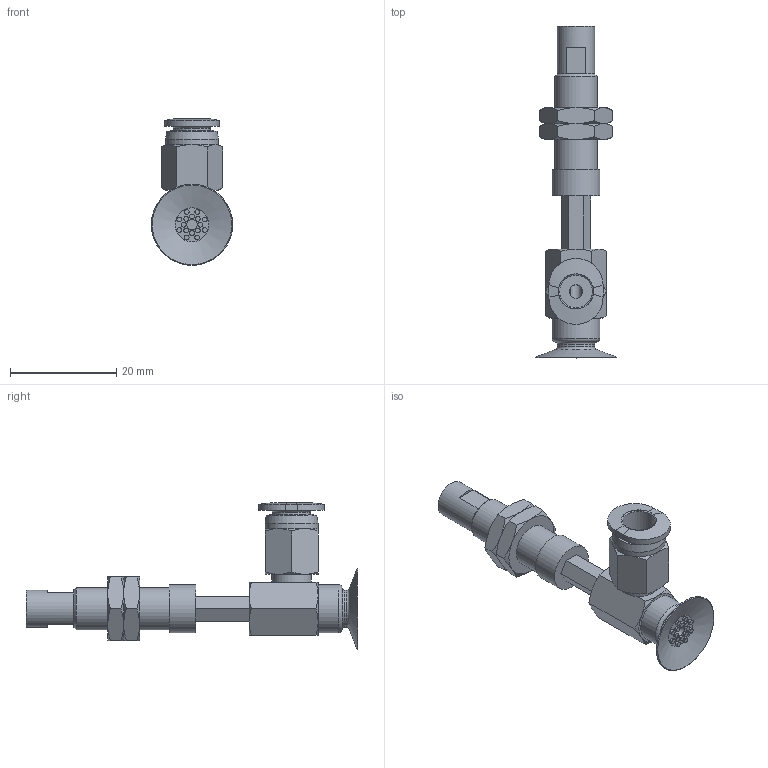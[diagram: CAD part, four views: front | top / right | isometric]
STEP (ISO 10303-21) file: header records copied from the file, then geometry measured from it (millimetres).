
FILE_DESCRIPTION(('STEP AP203'),'1');
FILE_NAME('-O.stp','2025-03-13T03:04:03',(' '),(' '),'Spatial InterOp 3D',' ',' ');
FILE_SCHEMA(('CONFIG_CONTROL_DESIGN'));
Length unit declared in the file: millimetre
Products named in the file (7): BNABPAYH-15A-10-※-O; NAPATH-10A-10--M; NAPATH-10A-10--F; Nut-10A-S; CONNECTOR-10A-10-PA; PC-C_06-M5; BPAG-15A-※
Assembly tree (7 placements, depth 2):
  BNABPAYH-15A-10-※-O
    NAPATH-10A-10--M
    NAPATH-10A-10--F
    Nut-10A-S  x2
    CONNECTOR-10A-10-PA
    PC-C_06-M5
    BPAG-15A-※
Bounding box: 15.3 x 62.5 x 27.63 mm (x, y, z)
Volume: 4333.6 mm3; surface area: 5554 mm2
Topology: 7 solids, 7 shells, 221 faces, 447 edges, 274 vertices
Faces by surface type: plane 96, cone 66, cylinder 41, torus 11, bspline 4, revolution 3
Full cylindrical faces by diameter (mm): 0.9 x16, 2 x2, 4 x4, 4.134 x2, 5 x2, 6 x2, 7 x3, 7.188 x2, 7.4 x1, 8 x1, 8.2 x1, 9 x2, 10 x1
Entity records: 5564 total; most frequent: CARTESIAN_POINT 1475, DIRECTION 781, ORIENTED_EDGE 648, AXIS2_PLACEMENT_3D 344, EDGE_CURVE 324, EDGE_LOOP 306, FACE_OUTER_BOUND 247, VERTEX_POINT 236
